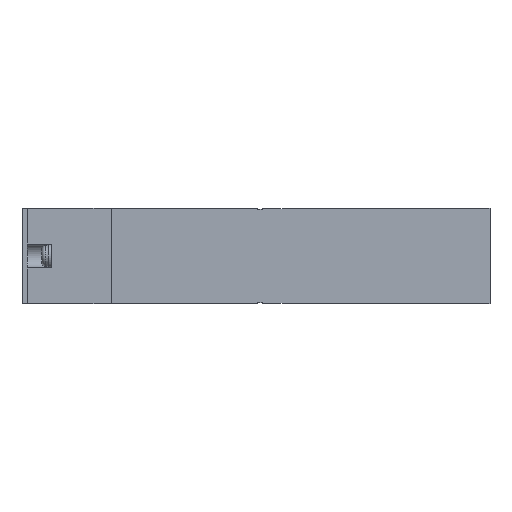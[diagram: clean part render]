
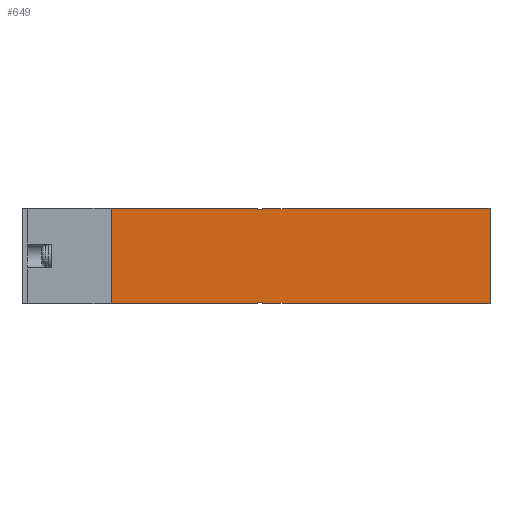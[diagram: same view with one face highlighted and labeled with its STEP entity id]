
A CAD part, front view. The second image highlights one B-rep face of the part: STEP entity #649.
In plain terms, the highlighted planar face has unit normal (0, -1, 0).
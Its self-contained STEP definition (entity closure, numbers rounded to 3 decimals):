
#649=ADVANCED_FACE('',(#1397),#1398,.F.);
#1397=FACE_OUTER_BOUND('',#2223,.T.);
#1398=PLANE('',#2224);
#2223=EDGE_LOOP('',(#5011,#5012,#5013,#5014,#5015,#5016,#5017,#5018,#5019,#5020,#5021,#5022,#5023,#5024,#5025,#5026,#5027,#5028,#5029,#5030,#5031,#5032,#5033,#5034));
#2224=AXIS2_PLACEMENT_3D('',#5035,#5036,#5037);
#5011=ORIENTED_EDGE('',*,*,#6418,.F.);
#5012=ORIENTED_EDGE('',*,*,#6373,.T.);
#5013=ORIENTED_EDGE('',*,*,#6266,.T.);
#5014=ORIENTED_EDGE('',*,*,#6419,.F.);
#5015=ORIENTED_EDGE('',*,*,#6420,.F.);
#5016=ORIENTED_EDGE('',*,*,#6421,.T.);
#5017=ORIENTED_EDGE('',*,*,#6365,.F.);
#5018=ORIENTED_EDGE('',*,*,#6255,.T.);
#5019=ORIENTED_EDGE('',*,*,#6258,.F.);
#5020=ORIENTED_EDGE('',*,*,#6422,.T.);
#5021=ORIENTED_EDGE('',*,*,#6178,.T.);
#5022=ORIENTED_EDGE('',*,*,#6174,.T.);
#5023=ORIENTED_EDGE('',*,*,#6348,.T.);
#5024=ORIENTED_EDGE('',*,*,#6423,.F.);
#5025=ORIENTED_EDGE('',*,*,#6424,.T.);
#5026=ORIENTED_EDGE('',*,*,#6425,.F.);
#5027=ORIENTED_EDGE('',*,*,#6426,.T.);
#5028=ORIENTED_EDGE('',*,*,#6371,.T.);
#5029=ORIENTED_EDGE('',*,*,#6427,.T.);
#5030=ORIENTED_EDGE('',*,*,#6389,.T.);
#5031=ORIENTED_EDGE('',*,*,#6401,.T.);
#5032=ORIENTED_EDGE('',*,*,#6394,.F.);
#5033=ORIENTED_EDGE('',*,*,#6428,.F.);
#5034=ORIENTED_EDGE('',*,*,#6429,.F.);
#5035=CARTESIAN_POINT('',(18.6,0.0,10.0));
#5036=DIRECTION('',(-0.0,1.0,0.0));
#5037=DIRECTION('',(1.0,0.0,0.0));
#6174=EDGE_CURVE('',#7619,#7617,#7620,.T.);
#6178=EDGE_CURVE('',#7626,#7619,#7627,.T.);
#6255=EDGE_CURVE('',#7770,#7768,#7771,.T.);
#6258=EDGE_CURVE('',#7774,#7768,#7776,.T.);
#6266=EDGE_CURVE('',#7784,#7788,#7790,.T.);
#6348=EDGE_CURVE('',#7617,#7932,#7934,.T.);
#6365=EDGE_CURVE('',#7770,#7957,#7960,.T.);
#6371=EDGE_CURVE('',#7970,#7968,#7971,.T.);
#6373=EDGE_CURVE('',#7966,#7784,#7973,.T.);
#6389=EDGE_CURVE('',#7997,#7995,#7998,.T.);
#6394=EDGE_CURVE('',#8005,#8000,#8007,.T.);
#6401=EDGE_CURVE('',#7995,#8000,#8017,.T.);
#6418=EDGE_CURVE('',#7966,#8039,#8040,.T.);
#6419=EDGE_CURVE('',#8041,#7788,#8042,.T.);
#6420=EDGE_CURVE('',#8043,#8041,#8044,.T.);
#6421=EDGE_CURVE('',#8043,#7957,#8045,.T.);
#6422=EDGE_CURVE('',#7774,#7626,#8046,.T.);
#6423=EDGE_CURVE('',#8047,#7932,#8048,.T.);
#6424=EDGE_CURVE('',#8047,#8049,#8050,.T.);
#6425=EDGE_CURVE('',#8051,#8049,#8052,.T.);
#6426=EDGE_CURVE('',#8051,#7970,#8053,.T.);
#6427=EDGE_CURVE('',#7968,#7997,#8054,.T.);
#6428=EDGE_CURVE('',#8055,#8005,#8056,.T.);
#6429=EDGE_CURVE('',#8039,#8055,#8057,.T.);
#7617=VERTEX_POINT('',#9940);
#7619=VERTEX_POINT('',#9943);
#7620=LINE('',#9944,#9945);
#7626=VERTEX_POINT('',#9954);
#7627=LINE('',#9955,#9956);
#7768=VERTEX_POINT('',#10204);
#7770=VERTEX_POINT('',#10207);
#7771=LINE('',#10208,#10209);
#7774=VERTEX_POINT('',#10213);
#7776=LINE('',#10216,#10217);
#7784=VERTEX_POINT('',#10229);
#7788=VERTEX_POINT('',#10235);
#7790=LINE('',#10238,#10239);
#7932=VERTEX_POINT('',#10480);
#7934=LINE('',#10483,#10484);
#7957=VERTEX_POINT('',#10520);
#7960=LINE('',#10525,#10526);
#7966=VERTEX_POINT('',#10535);
#7968=VERTEX_POINT('',#10538);
#7970=VERTEX_POINT('',#10541);
#7971=LINE('',#10542,#10543);
#7973=LINE('',#10546,#10547);
#7995=VERTEX_POINT('',#10583);
#7997=VERTEX_POINT('',#10586);
#7998=LINE('',#10587,#10588);
#8000=VERTEX_POINT('',#10591);
#8005=VERTEX_POINT('',#10598);
#8007=LINE('',#10601,#10602);
#8017=LINE('',#10617,#10618);
#8039=VERTEX_POINT('',#10654);
#8040=LINE('',#10655,#10656);
#8041=VERTEX_POINT('',#10657);
#8042=LINE('',#10658,#10659);
#8043=VERTEX_POINT('',#10660);
#8044=LINE('',#10661,#10662);
#8045=LINE('',#10663,#10664);
#8046=LINE('',#10665,#10666);
#8047=VERTEX_POINT('',#10667);
#8048=LINE('',#10668,#10669);
#8049=VERTEX_POINT('',#10670);
#8050=LINE('',#10671,#10672);
#8051=VERTEX_POINT('',#10673);
#8052=LINE('',#10674,#10675);
#8053=LINE('',#10676,#10677);
#8054=LINE('',#10678,#10679);
#8055=VERTEX_POINT('',#10680);
#8056=LINE('',#10681,#10682);
#8057=LINE('',#10683,#10684);
#9940=CARTESIAN_POINT('',(35.1,0.0,-10.0));
#9943=CARTESIAN_POINT('',(35.1,0.0,-9.9));
#9944=CARTESIAN_POINT('',(35.1,0.0,-9.9));
#9945=VECTOR('',#11674,1.0);
#9954=CARTESIAN_POINT('',(18.6,0.0,-9.9));
#9955=CARTESIAN_POINT('',(18.6,0.0,-9.9));
#9956=VECTOR('',#11678,1.0);
#10204=CARTESIAN_POINT('',(35.1,0.0,9.9));
#10207=CARTESIAN_POINT('',(35.1,0.0,10.0));
#10208=CARTESIAN_POINT('',(35.1,0.0,10.1));
#10209=VECTOR('',#11785,1.0);
#10213=CARTESIAN_POINT('',(18.6,0.0,9.9));
#10216=CARTESIAN_POINT('',(18.6,0.0,9.9));
#10217=VECTOR('',#11788,1.0);
#10229=CARTESIAN_POINT('',(50.1,0.0,9.8));
#10235=CARTESIAN_POINT('',(49.1,0.0,9.8));
#10238=CARTESIAN_POINT('',(18.6,0.0,9.8));
#10239=VECTOR('',#11796,1.0);
#10480=CARTESIAN_POINT('',(44.1,0.0,-10.0));
#10483=CARTESIAN_POINT('',(18.6,0.0,-10.0));
#10484=VECTOR('',#11891,1.0);
#10520=CARTESIAN_POINT('',(44.1,0.0,10.0));
#10525=CARTESIAN_POINT('',(18.6,0.0,10.0));
#10526=VECTOR('',#11910,1.0);
#10535=CARTESIAN_POINT('',(50.1,0.0,9.9));
#10538=CARTESIAN_POINT('',(50.1,0.0,-9.9));
#10541=CARTESIAN_POINT('',(50.1,0.0,-9.8));
#10542=CARTESIAN_POINT('',(50.1,0.0,10.0));
#10543=VECTOR('',#11916,1.0);
#10546=CARTESIAN_POINT('',(50.1,0.0,10.0));
#10547=VECTOR('',#11918,1.0);
#10583=CARTESIAN_POINT('',(55.1,0.0,-10.0));
#10586=CARTESIAN_POINT('',(55.1,0.0,-9.9));
#10587=CARTESIAN_POINT('',(55.1,0.0,-9.9));
#10588=VECTOR('',#11934,1.0);
#10591=CARTESIAN_POINT('',(97.6,0.0,-10.0));
#10598=CARTESIAN_POINT('',(97.6,0.0,10.0));
#10601=CARTESIAN_POINT('',(97.6,0.0,10.0));
#10602=VECTOR('',#11939,1.0);
#10617=CARTESIAN_POINT('',(18.6,0.0,-10.0));
#10618=VECTOR('',#11948,1.0);
#10654=CARTESIAN_POINT('',(55.1,0.0,9.9));
#10655=CARTESIAN_POINT('',(44.1,0.0,9.9));
#10656=VECTOR('',#11969,1.0);
#10657=CARTESIAN_POINT('',(49.1,0.0,9.9));
#10658=CARTESIAN_POINT('',(49.1,0.0,10.0));
#10659=VECTOR('',#11970,1.0);
#10660=CARTESIAN_POINT('',(44.1,0.0,9.9));
#10661=CARTESIAN_POINT('',(44.1,0.0,9.9));
#10662=VECTOR('',#11971,1.0);
#10663=CARTESIAN_POINT('',(44.1,0.0,9.9));
#10664=VECTOR('',#11972,1.0);
#10665=CARTESIAN_POINT('',(18.6,0.0,10.0));
#10666=VECTOR('',#11973,1.0);
#10667=CARTESIAN_POINT('',(44.1,0.0,-9.9));
#10668=CARTESIAN_POINT('',(44.1,0.0,-9.9));
#10669=VECTOR('',#11974,1.0);
#10670=CARTESIAN_POINT('',(49.1,0.0,-9.9));
#10671=CARTESIAN_POINT('',(44.1,0.0,-9.9));
#10672=VECTOR('',#11975,1.0);
#10673=CARTESIAN_POINT('',(49.1,0.0,-9.8));
#10674=CARTESIAN_POINT('',(49.1,0.0,10.0));
#10675=VECTOR('',#11976,1.0);
#10676=CARTESIAN_POINT('',(18.6,0.0,-9.8));
#10677=VECTOR('',#11977,1.0);
#10678=CARTESIAN_POINT('',(44.1,0.0,-9.9));
#10679=VECTOR('',#11978,1.0);
#10680=CARTESIAN_POINT('',(55.1,0.0,10.0));
#10681=CARTESIAN_POINT('',(18.6,0.0,10.0));
#10682=VECTOR('',#11979,1.0);
#10683=CARTESIAN_POINT('',(55.1,0.0,9.9));
#10684=VECTOR('',#11980,1.0);
#11674=DIRECTION('',(0.0,0.0,-1.0));
#11678=DIRECTION('',(1.0,0.0,0.0));
#11785=DIRECTION('',(0.0,0.0,-1.0));
#11788=DIRECTION('',(1.0,0.0,0.0));
#11796=DIRECTION('',(-1.0,0.0,0.0));
#11891=DIRECTION('',(1.0,0.0,0.0));
#11910=DIRECTION('',(1.0,0.0,0.0));
#11916=DIRECTION('',(0.0,0.0,-1.0));
#11918=DIRECTION('',(0.0,0.0,-1.0));
#11934=DIRECTION('',(0.0,0.0,-1.0));
#11939=DIRECTION('',(0.0,0.0,-1.0));
#11948=DIRECTION('',(1.0,0.0,0.0));
#11969=DIRECTION('',(1.0,0.0,0.0));
#11970=DIRECTION('',(0.0,0.0,-1.0));
#11971=DIRECTION('',(1.0,0.0,0.0));
#11972=DIRECTION('',(0.0,0.0,1.0));
#11973=DIRECTION('',(0.0,0.0,-1.0));
#11974=DIRECTION('',(0.0,0.0,-1.0));
#11975=DIRECTION('',(1.0,0.0,0.0));
#11976=DIRECTION('',(0.0,0.0,-1.0));
#11977=DIRECTION('',(1.0,0.0,0.0));
#11978=DIRECTION('',(1.0,0.0,0.0));
#11979=DIRECTION('',(1.0,0.0,0.0));
#11980=DIRECTION('',(0.0,0.0,1.0));
